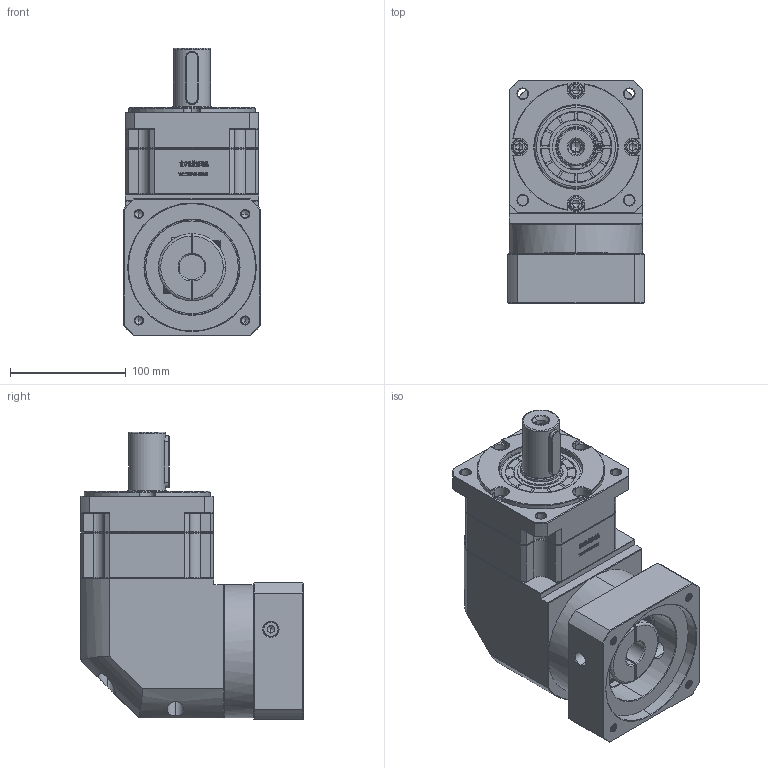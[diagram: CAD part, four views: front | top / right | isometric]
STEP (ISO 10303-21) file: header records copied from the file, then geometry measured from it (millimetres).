
FILE_DESCRIPTION (( 'STEP AP214' ), '1' );
FILE_NAME ('ZBR115A-D32-L1-22-110-130-M8.step', '2023-03-03T05:00:11', ( '' ), ( 'Microsoft' ), 'SwSTEP 2.0', 'SolidWorks 2016', '' );
FILE_SCHEMA (( 'AUTOMOTIVE_DESIGN' ));
Length unit declared in the file: millimetre
Products named in the file (1): ZBR115A-D32-L1-22-110-130-M8
Bounding box: 118 x 192.4 x 248 mm (x, y, z)
Volume: 2951248.1 mm3; surface area: 248152.2 mm2
Topology: 6 solids, 6 shells, 2983 faces, 7905 edges, 5068 vertices
Faces by surface type: plane 1559, bspline 607, cylinder 439, cone 370, torus 8
Entity records: 162015 total; most frequent: CARTESIAN_POINT 60095, ORIENTED_EDGE 15750, DIRECTION 11921, EDGE_CURVE 7875, LINE 5307, VECTOR 5307, VERTEX_POINT 5068, AXIS2_PLACEMENT_3D 3307
